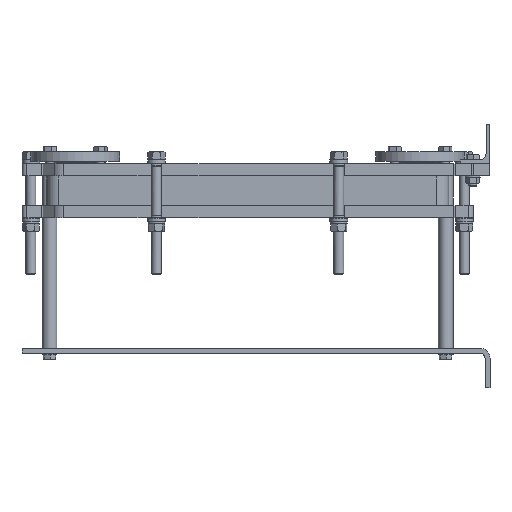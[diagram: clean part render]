
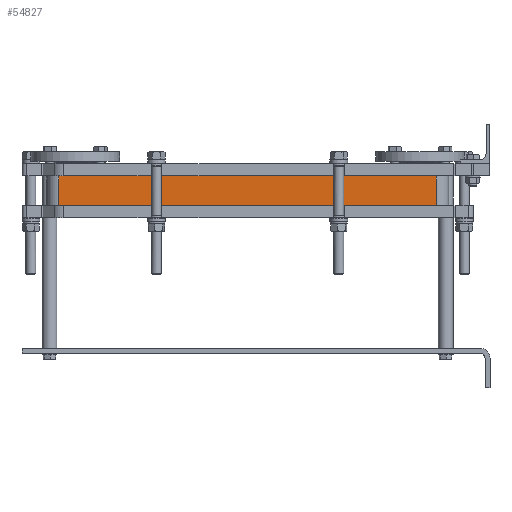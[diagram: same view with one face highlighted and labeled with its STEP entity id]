
A CAD part, left-side view. The second image highlights one B-rep face of the part: STEP entity #54827.
In plain terms, the highlighted planar face has unit normal (-1, 0, 0).
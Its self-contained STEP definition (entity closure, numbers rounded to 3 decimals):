
#734 = VERTEX_POINT ( 'NONE', #28861 ) ;
#2915 = VECTOR ( 'NONE', #9164, 1000. ) ;
#2932 = DIRECTION ( 'NONE',  ( 0., -1., 0. ) ) ;
#7685 = LINE ( 'NONE', #43543, #33469 ) ;
#9164 = DIRECTION ( 'NONE',  ( 0., 1., 0. ) ) ;
#10457 = VECTOR ( 'NONE', #44138, 1000. ) ;
#11192 = EDGE_CURVE ( 'NONE', #734, #21288, #71476, .T. ) ;
#11335 = CARTESIAN_POINT ( 'NONE',  ( 31.5, 109., -165. ) ) ;
#13056 = FACE_OUTER_BOUND ( 'NONE', #23913, .T. ) ;
#17077 = ORIENTED_EDGE ( 'NONE', *, *, #97104, .T. ) ;
#21288 = VERTEX_POINT ( 'NONE', #11335 ) ;
#21832 = DIRECTION ( 'NONE',  ( -1., 0., 0. ) ) ;
#22461 = CARTESIAN_POINT ( 'NONE',  ( 31.5, 875., -105. ) ) ;
#23913 = EDGE_LOOP ( 'NONE', ( #71975, #17077, #46634, #48782 ) ) ;
#25452 = CARTESIAN_POINT ( 'NONE',  ( 31.5, 875., -165. ) ) ;
#26290 = LINE ( 'NONE', #47927, #61570 ) ;
#28861 = CARTESIAN_POINT ( 'NONE',  ( 31.5, 109., -105. ) ) ;
#33469 = VECTOR ( 'NONE', #95991, 1000. ) ;
#38979 = CARTESIAN_POINT ( 'NONE',  ( 31.5, 875., -165. ) ) ;
#43543 = CARTESIAN_POINT ( 'NONE',  ( 31.5, 875., -105. ) ) ;
#44138 = DIRECTION ( 'NONE',  ( 0., 0., -1. ) ) ;
#46634 = ORIENTED_EDGE ( 'NONE', *, *, #57068, .F. ) ;
#47440 = VERTEX_POINT ( 'NONE', #22461 ) ;
#47927 = CARTESIAN_POINT ( 'NONE',  ( 31.5, 875., -105. ) ) ;
#48782 = ORIENTED_EDGE ( 'NONE', *, *, #11192, .F. ) ;
#54827 = ADVANCED_FACE ( 'NONE', ( #13056 ), #65004, .T. ) ;
#57068 = EDGE_CURVE ( 'NONE', #21288, #78671, #65134, .T. ) ;
#61570 = VECTOR ( 'NONE', #2932, 1000. ) ;
#65004 = PLANE ( 'NONE',  #76275 ) ;
#65134 = LINE ( 'NONE', #25452, #2915 ) ;
#71476 = LINE ( 'NONE', #88474, #10457 ) ;
#71975 = ORIENTED_EDGE ( 'NONE', *, *, #86831, .F. ) ;
#73800 = CARTESIAN_POINT ( 'NONE',  ( 31.5, 109., -105. ) ) ;
#76275 = AXIS2_PLACEMENT_3D ( 'NONE', #73800, #21832, #96077 ) ;
#78671 = VERTEX_POINT ( 'NONE', #38979 ) ;
#86831 = EDGE_CURVE ( 'NONE', #47440, #734, #26290, .T. ) ;
#88474 = CARTESIAN_POINT ( 'NONE',  ( 31.5, 109., -105. ) ) ;
#95991 = DIRECTION ( 'NONE',  ( 0., 0., -1. ) ) ;
#96077 = DIRECTION ( 'NONE',  ( 0., 1., 0. ) ) ;
#97104 = EDGE_CURVE ( 'NONE', #47440, #78671, #7685, .T. ) ;
